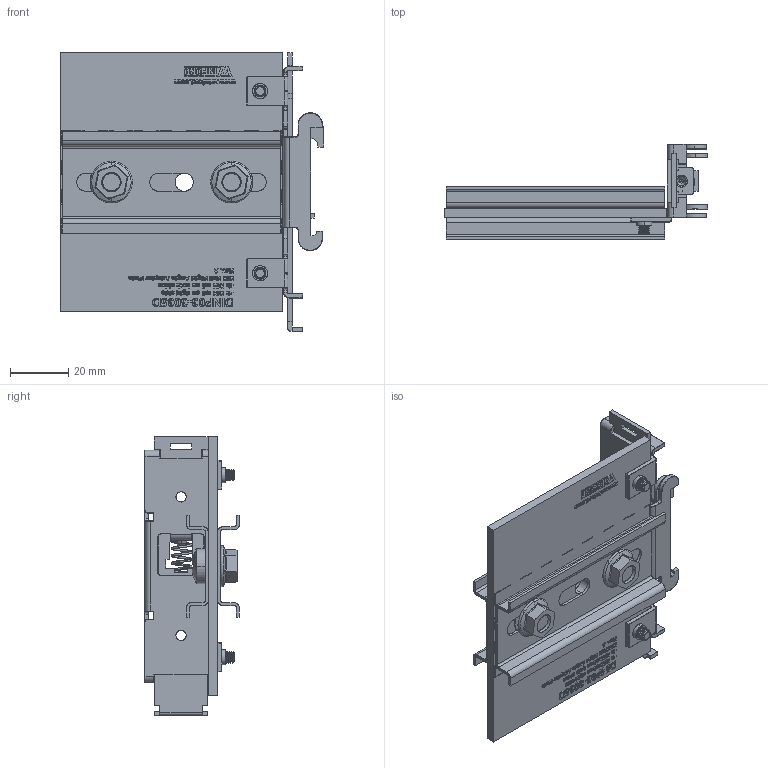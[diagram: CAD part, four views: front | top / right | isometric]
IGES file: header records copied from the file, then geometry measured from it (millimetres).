
Start section: SolidWorks IGES file using analytic representation for surfaces
Global section: file name: W:\end-user\products\dinp\dinp03-3035d\3dmodel\DINP03-3035D-2\rev_a\render\dinp03-3035d-2_rev_a.igs; native system: SolidWorks 2018; preprocessor: SolidWorks 2018; author: leviroy; date: 231117.163522; units: inch
Bounding box: 90.28 x 32.5 x 95.65 mm (x, y, z)
Surface area: 41617.9 mm2 (no closed solid volume)
Topology: 0 solids, 0 shells, 2783 faces, 27676 edges, 27649 vertices
Faces by surface type: bspline 2352, revolution 431
